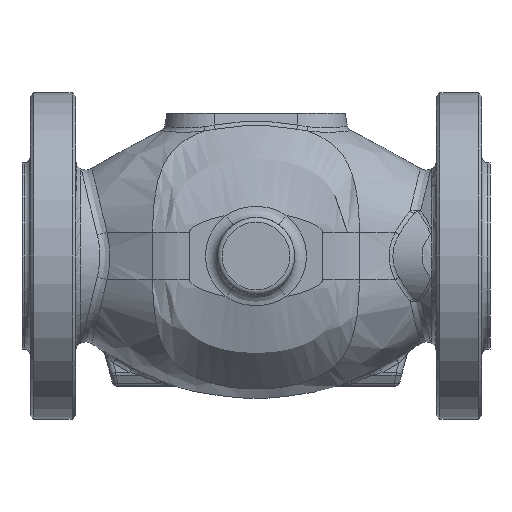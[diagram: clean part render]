
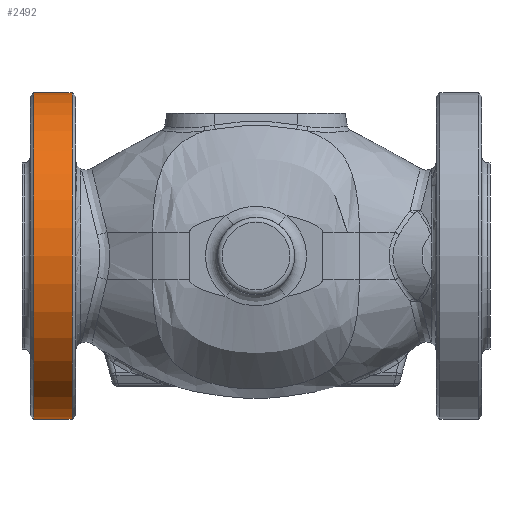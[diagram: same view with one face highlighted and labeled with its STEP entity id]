
A CAD part, front view. The second image highlights one B-rep face of the part: STEP entity #2492.
In plain terms, the highlighted cylindrical face has radius 137.5 mm (diameter 275 mm), a full revolution.
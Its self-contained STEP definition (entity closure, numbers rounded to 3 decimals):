
#1488=CYLINDRICAL_SURFACE('',#11365,137.5);
#2492=ADVANCED_FACE('',(#3453,#3454),#1488,.T.);
#3453=FACE_BOUND('',#4027,.T.);
#3454=FACE_BOUND('',#4028,.T.);
#4027=EDGE_LOOP('',(#5319));
#4028=EDGE_LOOP('',(#5320));
#5319=ORIENTED_EDGE('',*,*,#9279,.T.);
#5320=ORIENTED_EDGE('',*,*,#9280,.T.);
#8250=VERTEX_POINT('',#17755);
#8251=VERTEX_POINT('',#17757);
#9279=EDGE_CURVE('',#8250,#8250,#10650,.T.);
#9280=EDGE_CURVE('',#8251,#8251,#10651,.T.);
#10650=CIRCLE('',#11363,137.5);
#10651=CIRCLE('',#11364,137.5);
#11363=AXIS2_PLACEMENT_3D('',#17754,#12897,#12898);
#11364=AXIS2_PLACEMENT_3D('',#17756,#12899,#12900);
#11365=AXIS2_PLACEMENT_3D('',#17758,#12901,#12902);
#12897=DIRECTION('',(-1.,0.,0.));
#12898=DIRECTION('',(0.,0.,-1.));
#12899=DIRECTION('',(1.,0.,0.));
#12900=DIRECTION('',(0.,0.,1.));
#12901=DIRECTION('',(1.,0.,0.));
#12902=DIRECTION('',(0.,0.,-1.));
#17754=CARTESIAN_POINT('',(-154.9,0.,0.));
#17755=CARTESIAN_POINT('',(-154.9,0.,-137.5));
#17756=CARTESIAN_POINT('',(-187.,0.,0.));
#17757=CARTESIAN_POINT('',(-187.,0.,137.5));
#17758=CARTESIAN_POINT('',(0.,0.,0.));
